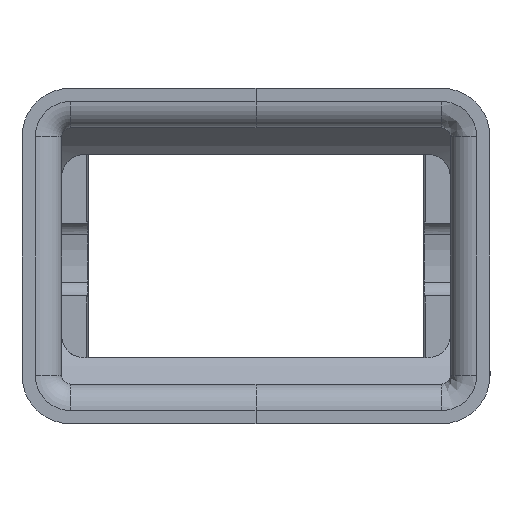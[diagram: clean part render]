
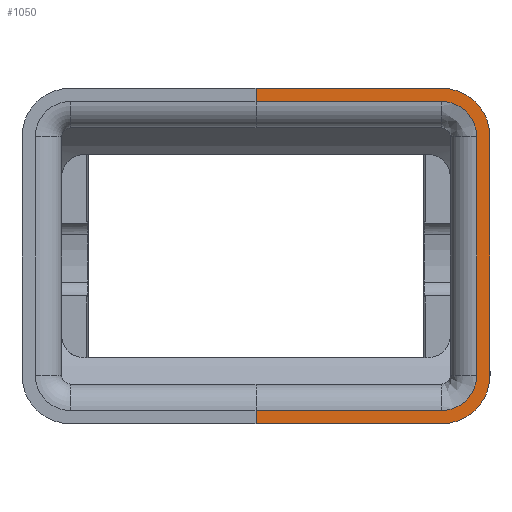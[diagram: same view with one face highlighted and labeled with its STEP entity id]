
A CAD part, front view. The second image highlights one B-rep face of the part: STEP entity #1050.
In plain terms, the highlighted free-form (B-spline) face has degree [1, 1] with [2, 2] control points.
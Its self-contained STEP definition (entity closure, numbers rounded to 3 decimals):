
#926=CARTESIAN_POINT('',(-77.095,-47.261,-9.575));
#927=VERTEX_POINT('',#926);
#935=CARTESIAN_POINT('',(-77.095,-47.261,11.425));
#936=VERTEX_POINT('',#935);
#943=CARTESIAN_POINT('',(-77.095,-47.261,11.425));
#944=DIRECTION('',(0.,0.,-1.0));
#945=VECTOR('',#944,21.);
#946=LINE('',#943,#945);
#947=EDGE_CURVE('',#936,#927,#946,.T.);
#952=CARTESIAN_POINT('',(-77.095,-9.261,16.925));
#953=CARTESIAN_POINT('',(-77.095,-9.261,-9.575));
#954=CARTESIAN_POINT('',(-77.095,-47.261,16.925));
#955=CARTESIAN_POINT('',(-77.095,-47.261,-9.575));
#956=B_SPLINE_SURFACE_WITH_KNOTS('',1,1,((#952,#954),(#953,#955)),.UNSPECIFIED.,.F.,.F.,.U.,(2,2),(2,2),(0.0,26.5),(0.0,38.),.UNSPECIFIED.);
#957=CARTESIAN_POINT('',(-77.095,-45.76,-9.575));
#958=VERTEX_POINT('',#957);
#959=CARTESIAN_POINT('',(-77.095,-47.261,-9.575));
#960=DIRECTION('',(0.0,1.0,0.0));
#961=VECTOR('',#960,1.501);
#962=LINE('',#959,#961);
#963=EDGE_CURVE('',#927,#958,#962,.T.);
#964=ORIENTED_EDGE('',*,*,#963,.F.);
#965=ORIENTED_EDGE('',*,*,#947,.F.);
#966=CARTESIAN_POINT('',(-77.095,-41.761,16.925));
#967=VERTEX_POINT('',#966);
#968=CARTESIAN_POINT('',(-77.095,-41.761,11.425));
#969=DIRECTION('',(1.0,0.,0.));
#970=DIRECTION('',(0.,1.0,0.));
#971=AXIS2_PLACEMENT_3D('',#968,#969,#970);
#972=CIRCLE('',#971,5.5);
#973=EDGE_CURVE('',#967,#936,#972,.T.);
#974=ORIENTED_EDGE('',*,*,#973,.F.);
#975=CARTESIAN_POINT('',(-77.095,-14.761,16.925));
#976=VERTEX_POINT('',#975);
#977=CARTESIAN_POINT('',(-77.095,-14.761,16.925));
#978=DIRECTION('',(0.,-1.0,0.));
#979=VECTOR('',#978,27.);
#980=LINE('',#977,#979);
#981=EDGE_CURVE('',#976,#967,#980,.T.);
#982=ORIENTED_EDGE('',*,*,#981,.F.);
#983=CARTESIAN_POINT('',(-77.095,-9.261,11.425));
#984=VERTEX_POINT('',#983);
#985=CARTESIAN_POINT('',(-77.095,-14.761,11.425));
#986=DIRECTION('',(1.0,0.,0.));
#987=DIRECTION('',(0.,0.,-1.0));
#988=AXIS2_PLACEMENT_3D('',#985,#986,#987);
#989=CIRCLE('',#988,5.5);
#990=EDGE_CURVE('',#984,#976,#989,.T.);
#991=ORIENTED_EDGE('',*,*,#990,.F.);
#992=CARTESIAN_POINT('',(-77.095,-9.261,-9.575));
#993=VERTEX_POINT('',#992);
#994=CARTESIAN_POINT('',(-77.095,-9.261,-9.575));
#995=DIRECTION('',(0.,0.,1.0));
#996=VECTOR('',#995,21.);
#997=LINE('',#994,#996);
#998=EDGE_CURVE('',#993,#984,#997,.T.);
#999=ORIENTED_EDGE('',*,*,#998,.F.);
#1000=CARTESIAN_POINT('',(-77.095,-10.762,-9.575));
#1001=VERTEX_POINT('',#1000);
#1002=CARTESIAN_POINT('',(-77.095,-10.762,-9.575));
#1003=DIRECTION('',(0.0,1.0,0.0));
#1004=VECTOR('',#1003,1.501);
#1005=LINE('',#1002,#1004);
#1006=EDGE_CURVE('',#1001,#993,#1005,.T.);
#1007=ORIENTED_EDGE('',*,*,#1006,.F.);
#1008=CARTESIAN_POINT('',(-77.095,-10.762,11.425));
#1009=VERTEX_POINT('',#1008);
#1010=CARTESIAN_POINT('',(-77.095,-10.762,-9.575));
#1011=DIRECTION('',(0.,0.,1.0));
#1012=VECTOR('',#1011,21.);
#1013=LINE('',#1010,#1012);
#1014=EDGE_CURVE('',#1001,#1009,#1013,.T.);
#1015=ORIENTED_EDGE('',*,*,#1014,.T.);
#1016=CARTESIAN_POINT('',(-77.095,-14.761,15.424));
#1017=VERTEX_POINT('',#1016);
#1018=CARTESIAN_POINT('',(-77.095,-14.761,11.425));
#1019=DIRECTION('',(1.0,0.,0.));
#1020=DIRECTION('',(0.,0.,-1.0));
#1021=AXIS2_PLACEMENT_3D('',#1018,#1019,#1020);
#1022=CIRCLE('',#1021,3.999);
#1023=EDGE_CURVE('',#1009,#1017,#1022,.T.);
#1024=ORIENTED_EDGE('',*,*,#1023,.T.);
#1025=CARTESIAN_POINT('',(-77.095,-41.761,15.424));
#1026=VERTEX_POINT('',#1025);
#1027=CARTESIAN_POINT('',(-77.095,-14.761,15.424));
#1028=DIRECTION('',(0.,-1.0,0.));
#1029=VECTOR('',#1028,27.);
#1030=LINE('',#1027,#1029);
#1031=EDGE_CURVE('',#1017,#1026,#1030,.T.);
#1032=ORIENTED_EDGE('',*,*,#1031,.T.);
#1033=CARTESIAN_POINT('',(-77.095,-45.76,11.425));
#1034=VERTEX_POINT('',#1033);
#1035=CARTESIAN_POINT('',(-77.095,-41.761,11.425));
#1036=DIRECTION('',(1.0,0.,0.));
#1037=DIRECTION('',(0.,1.0,0.));
#1038=AXIS2_PLACEMENT_3D('',#1035,#1036,#1037);
#1039=CIRCLE('',#1038,3.999);
#1040=EDGE_CURVE('',#1026,#1034,#1039,.T.);
#1041=ORIENTED_EDGE('',*,*,#1040,.T.);
#1042=CARTESIAN_POINT('',(-77.095,-45.76,11.425));
#1043=DIRECTION('',(0.,0.,-1.0));
#1044=VECTOR('',#1043,21.);
#1045=LINE('',#1042,#1044);
#1046=EDGE_CURVE('',#1034,#958,#1045,.T.);
#1047=ORIENTED_EDGE('',*,*,#1046,.T.);
#1048=EDGE_LOOP('',(#964,#965,#974,#982,#991,#999,#1007,#1015,#1024,#1032,#1041,#1047));
#1049=FACE_OUTER_BOUND('',#1048,.T.);
#1050=ADVANCED_FACE('',(#1049),#956,.T.);
